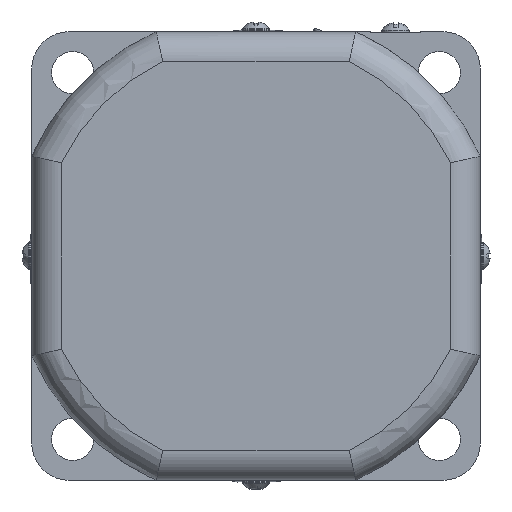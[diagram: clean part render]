
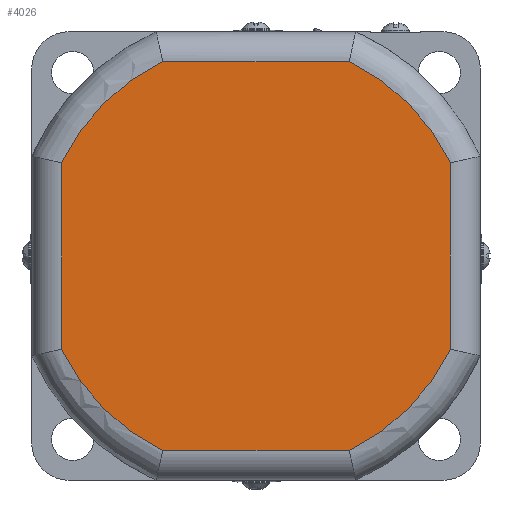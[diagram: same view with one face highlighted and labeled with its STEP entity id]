
A CAD part, left-side view. The second image highlights one B-rep face of the part: STEP entity #4026.
In plain terms, the highlighted planar face has unit normal (-1, 0, 0).
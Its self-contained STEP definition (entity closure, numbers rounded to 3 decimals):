
#230=LINE('',#6374,#534);
#233=LINE('',#6394,#537);
#234=LINE('',#6447,#538);
#235=LINE('',#6464,#539);
#534=VECTOR('',#4914,37.393);
#537=VECTOR('',#4919,37.393);
#538=VECTOR('',#4934,37.393);
#539=VECTOR('',#4937,37.393);
#966=FACE_OUTER_BOUND('',#1230,.T.);
#1230=EDGE_LOOP('',(#2852,#2853,#2854,#2855,#2856,#2857,#2858,#2859));
#1466=CIRCLE('',#4306,43.25);
#1467=CIRCLE('',#4310,43.25);
#1470=CIRCLE('',#4314,43.25);
#1471=CIRCLE('',#4318,43.25);
#1703=VERTEX_POINT('',#6324);
#1705=VERTEX_POINT('',#6341);
#1707=VERTEX_POINT('',#6359);
#1709=VERTEX_POINT('',#6378);
#1710=VERTEX_POINT('',#6396);
#1711=VERTEX_POINT('',#6414);
#1712=VERTEX_POINT('',#6432);
#1713=VERTEX_POINT('',#6449);
#2130=EDGE_CURVE('',#1705,#1703,#1466,.T.);
#2132=EDGE_CURVE('',#1707,#1705,#230,.T.);
#2136=EDGE_CURVE('',#1703,#1709,#233,.T.);
#2138=EDGE_CURVE('',#1710,#1707,#1467,.T.);
#2142=EDGE_CURVE('',#1709,#1711,#1470,.T.);
#2144=EDGE_CURVE('',#1712,#1710,#234,.T.);
#2146=EDGE_CURVE('',#1711,#1713,#235,.T.);
#2147=EDGE_CURVE('',#1713,#1712,#1471,.T.);
#2852=ORIENTED_EDGE('',*,*,#2146,.F.);
#2853=ORIENTED_EDGE('',*,*,#2142,.F.);
#2854=ORIENTED_EDGE('',*,*,#2136,.F.);
#2855=ORIENTED_EDGE('',*,*,#2130,.F.);
#2856=ORIENTED_EDGE('',*,*,#2132,.F.);
#2857=ORIENTED_EDGE('',*,*,#2138,.F.);
#2858=ORIENTED_EDGE('',*,*,#2144,.F.);
#2859=ORIENTED_EDGE('',*,*,#2147,.F.);
#3610=PLANE('',#4320);
#4026=ADVANCED_FACE('',(#966),#3610,.F.);
#4306=AXIS2_PLACEMENT_3D('',#6356,#4910,#4911);
#4310=AXIS2_PLACEMENT_3D('',#6411,#4922,#4923);
#4314=AXIS2_PLACEMENT_3D('',#6430,#4930,#4931);
#4318=AXIS2_PLACEMENT_3D('',#6466,#4940,#4941);
#4320=AXIS2_PLACEMENT_3D('',#6468,#4944,#4945);
#4910=DIRECTION('center_axis',(1.,0.,0.));
#4911=DIRECTION('ref_axis',(0.,0.707,-0.707));
#4914=DIRECTION('',(0.,1.,0.));
#4919=DIRECTION('',(0.,0.,1.));
#4922=DIRECTION('center_axis',(1.,0.,0.));
#4923=DIRECTION('ref_axis',(0.,-0.707,-0.707));
#4930=DIRECTION('center_axis',(1.,0.,0.));
#4931=DIRECTION('ref_axis',(0.,0.707,0.707));
#4934=DIRECTION('',(0.,0.,-1.));
#4937=DIRECTION('',(0.,-1.,0.));
#4940=DIRECTION('center_axis',(1.,0.,0.));
#4941=DIRECTION('ref_axis',(0.,-0.707,0.707));
#4944=DIRECTION('center_axis',(1.,0.,0.));
#4945=DIRECTION('ref_axis',(0.,1.,0.));
#6324=CARTESIAN_POINT('',(-58.3,39.,-18.697));
#6341=CARTESIAN_POINT('',(-58.3,18.697,-39.));
#6356=CARTESIAN_POINT('Origin',(-58.3,0.,
0.));
#6359=CARTESIAN_POINT('',(-58.3,-18.697,-39.));
#6374=CARTESIAN_POINT('',(-58.3,-18.697,-39.));
#6378=CARTESIAN_POINT('',(-58.3,39.,18.697));
#6394=CARTESIAN_POINT('',(-58.3,39.,-18.697));
#6396=CARTESIAN_POINT('',(-58.3,-39.,-18.697));
#6411=CARTESIAN_POINT('Origin',(-58.3,0.,
0.));
#6414=CARTESIAN_POINT('',(-58.3,18.697,39.));
#6430=CARTESIAN_POINT('Origin',(-58.3,0.,
0.));
#6432=CARTESIAN_POINT('',(-58.3,-39.,18.697));
#6447=CARTESIAN_POINT('',(-58.3,-39.,18.697));
#6449=CARTESIAN_POINT('',(-58.3,-18.697,39.));
#6464=CARTESIAN_POINT('',(-58.3,18.697,39.));
#6466=CARTESIAN_POINT('Origin',(-58.3,0.,
0.));
#6468=CARTESIAN_POINT('Origin',(-58.3,0.,
0.));
